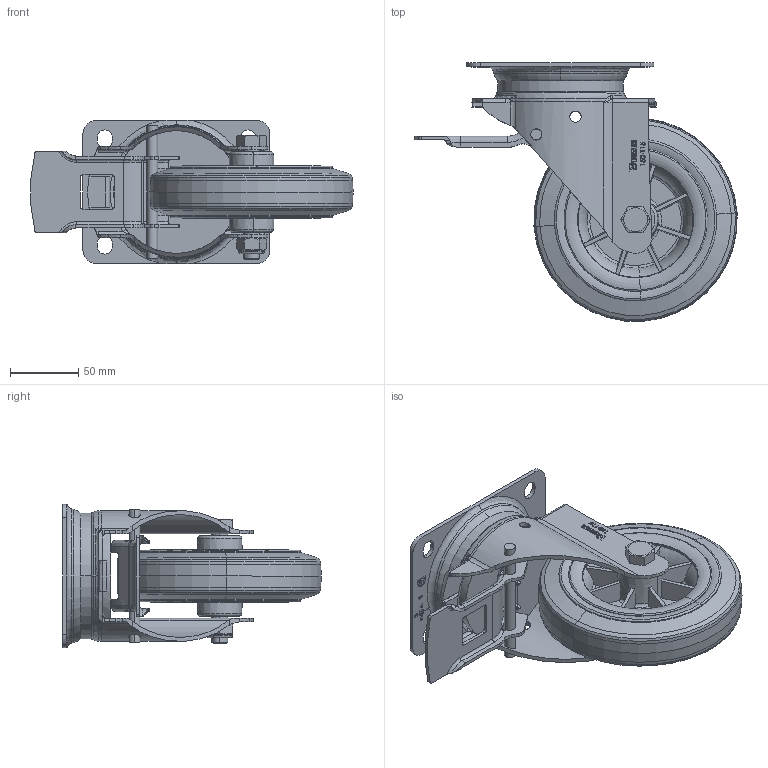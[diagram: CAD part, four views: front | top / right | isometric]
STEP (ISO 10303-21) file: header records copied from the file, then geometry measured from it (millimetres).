
FILE_DESCRIPTION (( 'STEP AP203' ), '1' );
FILE_NAME ('4115306004068-7.STEP', '2025-03-14T01:28:22', ( '' ), ( '' ), 'SwSTEP 2.0', 'SolidWorks 2019', '' );
FILE_SCHEMA (( 'CONFIG_CONTROL_DESIGN' ));
Length unit declared in the file: millimetre
Products named in the file (5): 4115306004068-7; 245011283001 歐規系列用車心M12x83L半牙 20220511; 215303060009 53經典後煞架-組立-展示用; 245021200005 尼龍螺帽 M12-P1.75; 黑色橡膠輪-展示用
Assembly tree (4 placements, depth 2):
  4115306004068-7
    215303060009 53經典後煞架-組立-展示用
    245011283001 歐規系列用車心M12x83L半牙 20220511
    245021200005 尼龍螺帽 M12-P1.75
    黑色橡膠輪-展示用
Bounding box: 236.04 x 189.4 x 105 mm (x, y, z)
Volume: 800920.5 mm3; surface area: 167759.6 mm2
Topology: 7 solids, 7 shells, 1422 faces, 3872 edges, 2533 vertices
Faces by surface type: plane 633, bspline 353, cylinder 273, torus 92, cone 69, sphere 2
Entity records: 64364 total; most frequent: CARTESIAN_POINT 30405, ORIENTED_EDGE 7736, DIRECTION 5751, EDGE_CURVE 3868, VERTEX_POINT 2533, LINE 2033, VECTOR 2033, AXIS2_PLACEMENT_3D 1859
